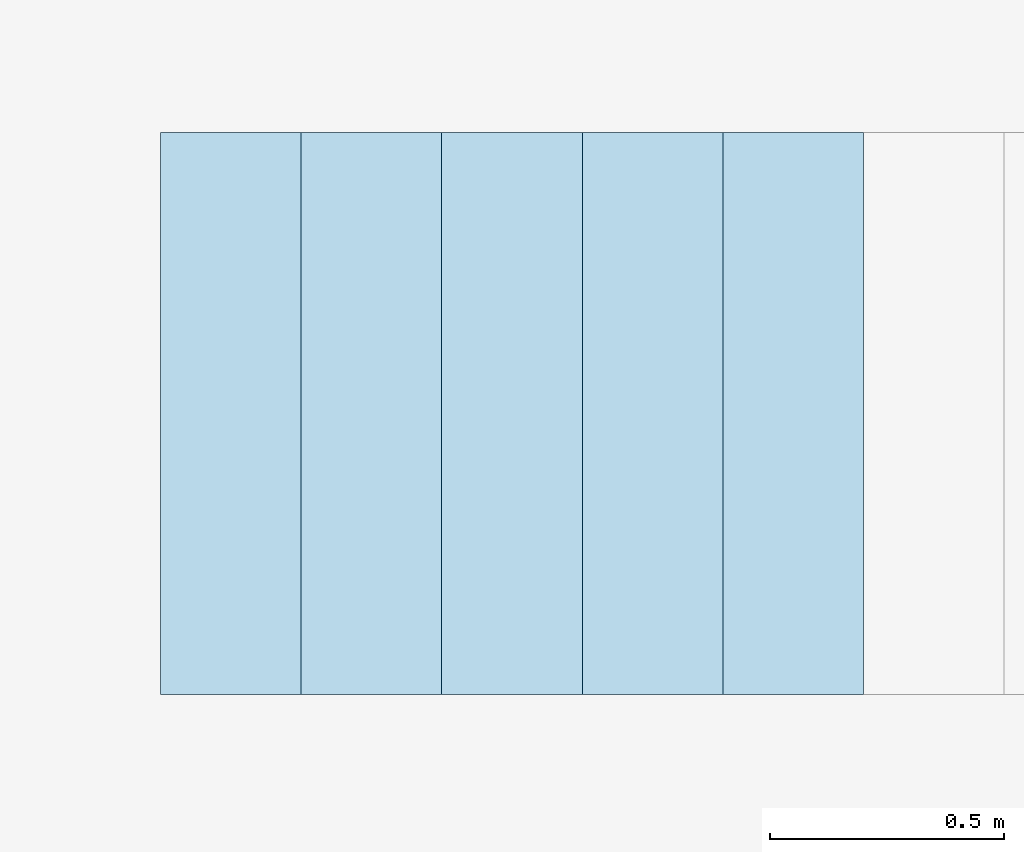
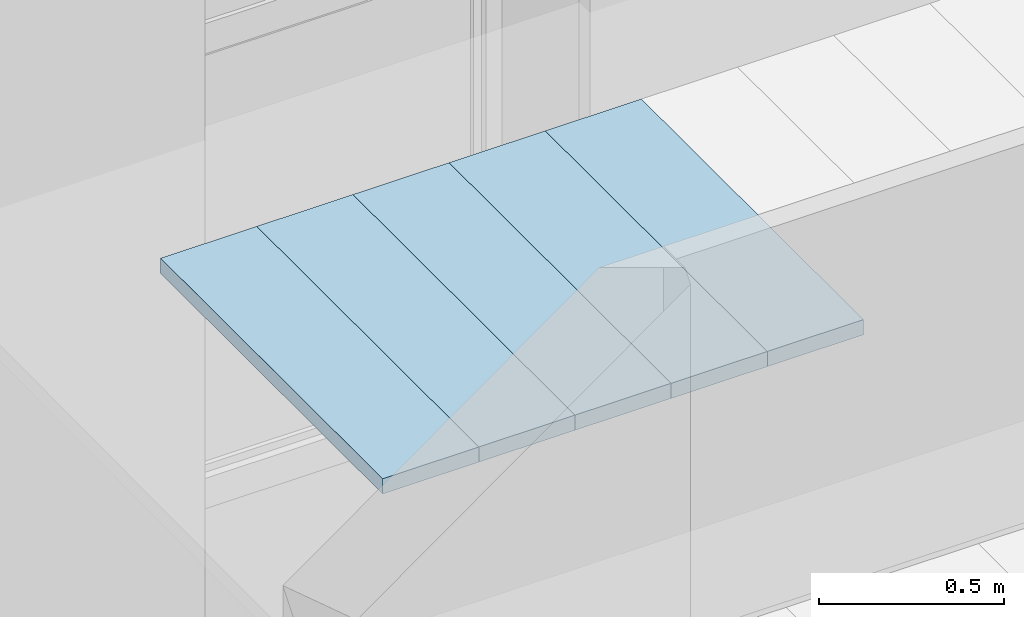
# One storey, part 7 of 68: 5 slabs.
"""IFC2X3 building model written with IfcOpenShell, lengths in millimetres."""

from ifc_helpers import new_model, entity, si_unit, converted_unit, derived_unit, money_unit, direction, frame, origin_with_axes, place, context, subcontext, project, spatial, polyline, outline, extrude, material, layer, layer_set, layer_usage, type_object, element, save


model = new_model("IFC2X3")

# Units and contexts
model_context = context("Model", 3, precision=0.01, world=origin_with_axes(), true_north=direction((0.0, 1.0)))
body_context = subcontext(model_context, "Body", "Model", "MODEL_VIEW")
ifc_project = project(units=[si_unit("LENGTHUNIT", "METRE", prefix="MILLI"), si_unit("AREAUNIT", "SQUARE_METRE"), si_unit("VOLUMEUNIT", "CUBIC_METRE"), converted_unit("PLANEANGLEUNIT", "DEGREE", entity("IfcPlaneAngleMeasure", 0.0174532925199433), si_unit("PLANEANGLEUNIT", "RADIAN"), dimensions=[0, 0, 0, 0, 0, 0, 0]), money_unit("USD"), converted_unit("TIMEUNIT", "Year", entity("IfcTimeMeasure", 31557600.0), si_unit("TIMEUNIT", "SECOND"), dimensions=[0, 0, 1, 0, 0, 0, 0]), si_unit("MASSUNIT", "GRAM", prefix="KILO"), si_unit("THERMODYNAMICTEMPERATUREUNIT", "DEGREE_CELSIUS"), si_unit("LUMINOUSINTENSITYUNIT", "LUMEN"), si_unit("ENERGYUNIT", "JOULE", prefix="MEGA"), derived_unit("THERMALCONDUCTANCEUNIT", [(si_unit("POWERUNIT", "WATT"), 1), (si_unit("LENGTHUNIT", "METRE"), -1), (si_unit("THERMODYNAMICTEMPERATUREUNIT", "KELVIN"), -1)]), derived_unit("SPECIFICHEATCAPACITYUNIT", [(si_unit("ENERGYUNIT", "JOULE"), 1), (si_unit("MASSUNIT", "GRAM", prefix="KILO"), -1), (si_unit("THERMODYNAMICTEMPERATUREUNIT", "KELVIN"), -1)]), derived_unit("MASSDENSITYUNIT", [(si_unit("MASSUNIT", "GRAM", prefix="KILO"), 1), (si_unit("VOLUMEUNIT", "CUBIC_METRE"), -1)])], contexts=[model_context])

# Site, building, storey
site_placement = place(None, origin_with_axes())
site = spatial("IfcSite", under=ifc_project, at=site_placement, Name="Sitio", CompositionType="ELEMENT")
building_placement = place(site_placement, origin_with_axes())
building = spatial("IfcBuilding", under=site, at=building_placement, Name="Construcción", CompositionType="ELEMENT")
storey_placement = place(building_placement, origin_with_axes())
storey = spatial("IfcBuildingStorey", under=building, at=storey_placement, Name="PLANTA 1ª", CompositionType="ELEMENT", Elevation=0.0)

# Slabs
ifc_material = material(Name="ARQ_ME126_CelRas_Placa_Metallica")
ifc_layer = layer(ifc_material, 50.0, ventilated="UNKNOWN")
ifc_layer_set = layer_set([ifc_layer], Name="ARQ_ME126_CelRas_Placa_Metallica 50")
ifc_layer_usage_1 = layer_usage(ifc_layer_set, "AXIS3", "NEGATIVE", 50.0)
slab_type = type_object("IfcSlabType", Name="ARQ_ME126_CelRas_Placa_Metallica 50", PredefinedType="NOTDEFINED")
slab_1_placement = place(storey_placement, frame((-26561.6828658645, 3382.153621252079, 2500.0), z_axis=(0.0, 0.0, 1.0), x_axis=(1.0, 0.0, 0.0)))
element("IfcSlab", 1, at=slab_1_placement, inside=storey, type_object=slab_type, material=ifc_layer_usage_1, Name="SLA - 026", PredefinedType="NOTDEFINED", context=body_context, shape_type="SweptSolid", body=[
    extrude(outline(polyline([(0.0, 0.0), (0.0, -1199.999999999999), (300.0000000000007, -1199.999999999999), (300.0000000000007, 0.0), (0.0, 0.0)])), frame((0.0, 0.0, -50.0), z_axis=(0.0, 0.0, 1.0), x_axis=(1.0, 0.0, 0.0)), (0.0, 0.0, 1.0), 50.0),
])
ifc_layer_usage_2 = layer_usage(ifc_layer_set, "AXIS3", "NEGATIVE", 50.0)
slab_2_placement = place(storey_placement, frame((-26861.6828658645, 3382.153621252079, 2500.0), z_axis=(0.0, 0.0, 1.0), x_axis=(1.0, 0.0, 0.0)))
element("IfcSlab", 2, at=slab_2_placement, inside=storey, type_object=slab_type, material=ifc_layer_usage_2, Name="SLA - 026", PredefinedType="NOTDEFINED", context=body_context, shape_type="SweptSolid", body=[
    extrude(outline(polyline([(0.0, 0.0), (0.0, -1199.999999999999), (299.9999999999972, -1199.999999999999), (299.9999999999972, 0.0), (0.0, 0.0)])), frame((0.0, 0.0, -50.0), z_axis=(0.0, 0.0, 1.0), x_axis=(1.0, 0.0, 0.0)), (0.0, 0.0, 1.0), 50.0),
])
ifc_layer_usage_3 = layer_usage(ifc_layer_set, "AXIS3", "NEGATIVE", 50.0)
slab_3_placement = place(storey_placement, frame((-26261.6828658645, 3382.153621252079, 2500.0), z_axis=(0.0, 0.0, 1.0), x_axis=(1.0, 0.0, 0.0)))
element("IfcSlab", 3, at=slab_3_placement, inside=storey, type_object=slab_type, material=ifc_layer_usage_3, Name="SLA - 026", PredefinedType="NOTDEFINED", context=body_context, shape_type="SweptSolid", body=[
    extrude(outline(polyline([(0.0, 0.0), (0.0, -1199.999999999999), (299.9999999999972, -1199.999999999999), (299.9999999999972, 0.0), (0.0, 0.0)])), frame((0.0, 0.0, -50.0), z_axis=(0.0, 0.0, 1.0), x_axis=(1.0, 0.0, 0.0)), (0.0, 0.0, 1.0), 50.0),
])
ifc_layer_usage_4 = layer_usage(ifc_layer_set, "AXIS3", "NEGATIVE", 50.0)
slab_4_placement = place(storey_placement, frame((-27161.6828658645, 3382.153621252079, 2500.0), z_axis=(0.0, 0.0, 1.0), x_axis=(1.0, 0.0, 0.0)))
element("IfcSlab", 4, at=slab_4_placement, inside=storey, type_object=slab_type, material=ifc_layer_usage_4, Name="SLA - 026", PredefinedType="NOTDEFINED", context=body_context, shape_type="SweptSolid", body=[
    extrude(outline(polyline([(0.0, 0.0), (0.0, -1199.999999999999), (299.9999999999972, -1199.999999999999), (299.9999999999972, 0.0), (0.0, 0.0)])), frame((0.0, 0.0, -50.0), z_axis=(0.0, 0.0, 1.0), x_axis=(1.0, 0.0, 0.0)), (0.0, 0.0, 1.0), 50.0),
])
ifc_layer_usage_5 = layer_usage(ifc_layer_set, "AXIS3", "NEGATIVE", 50.0)
slab_5_placement = place(storey_placement, frame((-27461.6828658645, 3382.153621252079, 2500.0), z_axis=(0.0, 0.0, 1.0), x_axis=(1.0, 0.0, 0.0)))
element("IfcSlab", 5, at=slab_5_placement, inside=storey, type_object=slab_type, material=ifc_layer_usage_5, Name="SLA - 026", PredefinedType="NOTDEFINED", context=body_context, shape_type="SweptSolid", body=[
    extrude(outline(polyline([(0.0, 0.0), (0.0, -1199.999999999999), (299.9999999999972, -1199.999999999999), (299.9999999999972, 0.0), (0.0, 0.0)])), frame((0.0, 0.0, -50.0), z_axis=(0.0, 0.0, 1.0), x_axis=(1.0, 0.0, 0.0)), (0.0, 0.0, 1.0), 50.0),
])

save(model, "model.ifc")
